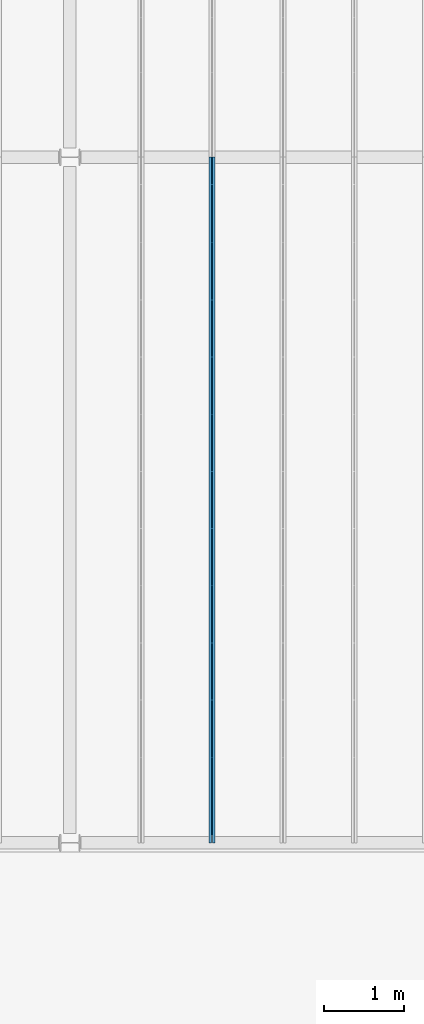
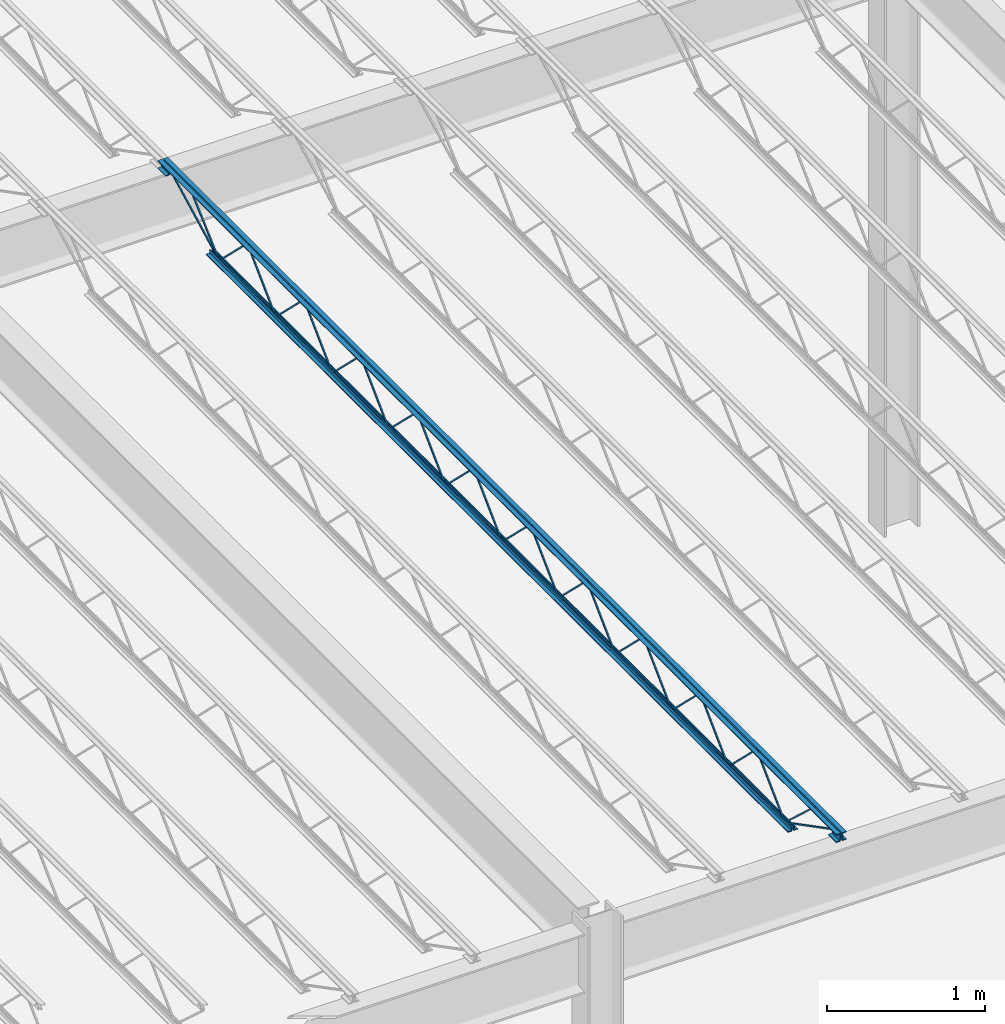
# One storey, part 34 of 119: 1 beam.
"""IFC2X3 building model written with IfcOpenShell, lengths in metres."""

from ifc_helpers import new_model, entity, si_unit, converted_unit, frame, origin, place, context, project, spatial, face_set, surface_model, element, save


model = new_model("IFC2X3")

# Units and contexts
model_context = context("Model", 3, precision=1e-09, world=origin())
plan_context = context("Plan", 3, precision=1e-09, world=origin())
ifc_project = project(units=[si_unit("LENGTHUNIT", "METRE"), si_unit("AREAUNIT", "SQUARE_METRE"), si_unit("VOLUMEUNIT", "CUBIC_METRE"), converted_unit("PLANEANGLEUNIT", "DEGREE", entity("IfcRatioMeasure", 0.01745329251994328), si_unit("PLANEANGLEUNIT", "RADIAN"), dimensions=[0, 0, 0, 0, 0, 0, 0]), si_unit("TIMEUNIT", "SECOND")], contexts=[model_context, plan_context])

# Site, building, storey
site_placement = place(None, origin())
site = spatial("IfcSite", under=ifc_project, at=site_placement, Name="Default", CompositionType="ELEMENT")
building_placement = place(site_placement, origin())
building = spatial("IfcBuilding", under=site, at=building_placement, CompositionType="ELEMENT")
storey_placement = place(building_placement, frame((0.0, 0.0, 4.570000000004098)))
storey = spatial("IfcBuildingStorey", under=building, at=storey_placement, Name="Second Floor", CompositionType="ELEMENT", Elevation=4.570000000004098)

# Beam
beam_placement = place(storey_placement, frame((-31.80925000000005, 10.04000000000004, 4.323999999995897), z_axis=(0.0, 0.0, 1.0), x_axis=(-1.0, 0.0, 0.0)))
element("IfcBeam", 1, at=beam_placement, inside=storey, Name="M_K-Series Bar Joist-Rod Web:14K1:14K1", ObjectType="M_K-Series Bar Joist-Rod Web:14K1", context=model_context, shape_type="SurfaceModel", body=[
    surface_model("IfcFaceBasedSurfaceModel", [(-0.03200000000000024, -2.141200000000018, 0.01110000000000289), (-0.04149999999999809, -2.141200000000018, 0.01110000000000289), (-0.04149999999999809, -2.141200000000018, 0.001600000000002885), (-0.03200000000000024, -2.141200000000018, 0.001600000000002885), (-0.04149999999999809, -2.13996192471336, 0.01110000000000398), (-0.03200000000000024, -2.13996192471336, 0.01110000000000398), (-0.04149999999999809, -2.136088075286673, 0.001600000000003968), (-0.04149999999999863, -1.78513807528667, 0.3449000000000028), (-0.04149999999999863, -1.782661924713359, 0.3449000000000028), (-0.04149999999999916, -1.431711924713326, 0.001600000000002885), (-0.04149999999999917, -1.426600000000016, 0.001600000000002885), (-0.04149999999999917, -1.426600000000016, 0.01110000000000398), (-0.04149999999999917, -1.427838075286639, 0.01110000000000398), (-0.04149999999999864, -1.778788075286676, 0.3544000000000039), (-0.04149999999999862, -1.789011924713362, 0.3544000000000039), (-0.03199999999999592, -2.136088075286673, 0.001600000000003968), (-0.03200000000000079, -1.785138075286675, 0.3449000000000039), (-0.03200000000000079, -1.782661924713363, 0.3449000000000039), (-0.03200000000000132, -1.431711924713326, 0.001600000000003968), (-0.03200000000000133, -1.426600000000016, 0.001600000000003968), (-0.03200000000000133, -1.426600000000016, 0.01110000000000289), (-0.03200000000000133, -1.427838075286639, 0.01110000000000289), (-0.03200000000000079, -1.778788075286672, 0.3544000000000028), (-0.03200000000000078, -1.789011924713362, 0.3544000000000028), (-0.03199999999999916, -2.855800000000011, 0.01110000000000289), (-0.04149999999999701, -2.855800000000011, 0.01110000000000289), (-0.04149999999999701, -2.855800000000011, 0.001600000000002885), (-0.03199999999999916, -2.855800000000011, 0.001600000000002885), (-0.04149999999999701, -2.854561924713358, 0.01110000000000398), (-0.03199999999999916, -2.854561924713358, 0.01110000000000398), (-0.04149999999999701, -2.850688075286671, 0.001600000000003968), (-0.04149999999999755, -2.499738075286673, 0.3449000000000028), (-0.04149999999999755, -2.497261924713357, 0.3449000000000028), (-0.04149999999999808, -2.14631192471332, 0.001600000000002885), (-0.04149999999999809, -2.141200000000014, 0.001600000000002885), (-0.04149999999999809, -2.141200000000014, 0.01110000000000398), (-0.04149999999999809, -2.142438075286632, 0.01110000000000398), (-0.04149999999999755, -2.49338807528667, 0.3544000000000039), (-0.04149999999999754, -2.50361192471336, 0.3544000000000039), (-0.03199999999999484, -2.850688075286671, 0.001600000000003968), (-0.0319999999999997, -2.499738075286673, 0.3449000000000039), (-0.0319999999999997, -2.497261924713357, 0.3449000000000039), (-0.03200000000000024, -2.14631192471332, 0.001600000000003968), (-0.03200000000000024, -2.141200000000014, 0.001600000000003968), (-0.03200000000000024, -2.141200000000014, 0.01110000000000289), (-0.03200000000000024, -2.142438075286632, 0.01110000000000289), (-0.03199999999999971, -2.49338807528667, 0.3544000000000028), (-0.0319999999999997, -2.50361192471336, 0.3544000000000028), (-0.03200000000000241, -3.570400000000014, 0.01110000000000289), (-0.04150000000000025, -3.570400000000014, 0.01110000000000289), (-0.04150000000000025, -3.570400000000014, 0.001600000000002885), (-0.03200000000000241, -3.570400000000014, 0.001600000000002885), (-0.04150000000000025, -3.569161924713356, 0.01110000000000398), (-0.03200000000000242, -3.569161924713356, 0.01110000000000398), (-0.04150000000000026, -3.565288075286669, 0.001600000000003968), (-0.04150000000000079, -3.214338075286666, 0.3449000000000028), (-0.04150000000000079, -3.211861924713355, 0.3449000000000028), (-0.04150000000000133, -2.860911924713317, 0.001600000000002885), (-0.04150000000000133, -2.855800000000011, 0.01110000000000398), (-0.04150000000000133, -2.857038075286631, 0.01110000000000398), (-0.0415000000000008, -3.207988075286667, 0.3544000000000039), (-0.04150000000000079, -3.218211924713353, 0.3544000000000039), (-0.03199999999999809, -3.565288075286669, 0.001600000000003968), (-0.03200000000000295, -3.214338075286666, 0.3449000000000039), (-0.03200000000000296, -3.211861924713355, 0.3449000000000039), (-0.03200000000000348, -2.860911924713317, 0.001600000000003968), (-0.03200000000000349, -2.855800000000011, 0.001600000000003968), (-0.03200000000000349, -2.857038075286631, 0.01110000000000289), (-0.03200000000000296, -3.207988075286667, 0.3544000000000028), (-0.03200000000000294, -3.218211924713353, 0.3544000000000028), (-0.03200000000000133, -4.285000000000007, 0.01110000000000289), (-0.04149999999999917, -4.285000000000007, 0.01110000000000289), (-0.04149999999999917, -4.285000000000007, 0.001600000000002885), (-0.03200000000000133, -4.285000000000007, 0.001600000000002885), (-0.04149999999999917, -4.283761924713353, 0.01110000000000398), (-0.03200000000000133, -4.283761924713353, 0.01110000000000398), (-0.04149999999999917, -4.279888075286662, 0.001600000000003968), (-0.0414999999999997, -3.928938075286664, 0.3449000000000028), (-0.04149999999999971, -3.926461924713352, 0.3449000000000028), (-0.04150000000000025, -3.575511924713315, 0.001600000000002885), (-0.04150000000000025, -3.570400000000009, 0.001600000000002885), (-0.04150000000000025, -3.570400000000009, 0.01110000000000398), (-0.04150000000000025, -3.571638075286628, 0.01110000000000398), (-0.04149999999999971, -3.922588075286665, 0.3544000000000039), (-0.0414999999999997, -3.932811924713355, 0.3544000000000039), (-0.031999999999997, -4.279888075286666, 0.001600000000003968), (-0.03200000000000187, -3.928938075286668, 0.3449000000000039), (-0.03200000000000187, -3.926461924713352, 0.3449000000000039), (-0.0320000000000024, -3.575511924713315, 0.001600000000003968), (-0.03200000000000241, -3.570400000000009, 0.001600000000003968), (-0.03200000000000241, -3.570400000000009, 0.01110000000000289), (-0.03200000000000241, -3.571638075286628, 0.01110000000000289), (-0.03200000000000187, -3.922588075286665, 0.3544000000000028), (-0.03200000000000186, -3.932811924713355, 0.3544000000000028), (-0.03200000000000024, -4.999600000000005, 0.01110000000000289), (-0.04149999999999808, -4.999600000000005, 0.01110000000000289), (-0.04149999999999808, -4.999600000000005, 0.001600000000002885), (-0.03200000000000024, -4.999600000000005, 0.001600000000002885), (-0.04149999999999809, -4.998361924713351, 0.01110000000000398), (-0.03200000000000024, -4.998361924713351, 0.01110000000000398), (-0.04149999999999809, -4.994488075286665, 0.001600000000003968), (-0.04149999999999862, -4.643538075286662, 0.3449000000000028), (-0.04149999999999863, -4.64106192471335, 0.3449000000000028), (-0.04149999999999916, -4.290111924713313, 0.001600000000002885), (-0.04149999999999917, -4.285000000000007, 0.01110000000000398), (-0.04149999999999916, -4.286238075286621, 0.01110000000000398), (-0.04149999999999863, -4.637188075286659, 0.3544000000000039), (-0.04149999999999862, -4.647411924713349, 0.3544000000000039), (-0.03199999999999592, -4.994488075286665, 0.001600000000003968), (-0.03200000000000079, -4.643538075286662, 0.3449000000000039), (-0.03200000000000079, -4.641061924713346, 0.3449000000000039), (-0.03200000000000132, -4.290111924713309, 0.001600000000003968), (-0.03200000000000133, -4.285000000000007, 0.001600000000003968), (-0.03200000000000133, -4.286238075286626, 0.01110000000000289), (-0.03200000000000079, -4.637188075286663, 0.3544000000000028), (-0.03200000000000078, -4.647411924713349, 0.3544000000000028), (-0.03200000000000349, -5.714200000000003, 0.01110000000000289), (-0.04150000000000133, -5.714200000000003, 0.01110000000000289), (-0.04150000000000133, -5.714200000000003, 0.001600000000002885), (-0.03200000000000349, -5.714200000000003, 0.001600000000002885), (-0.04150000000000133, -5.712961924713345, 0.01110000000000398), (-0.03200000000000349, -5.712961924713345, 0.01110000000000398), (-0.04149999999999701, -5.709088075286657, 0.001600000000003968), (-0.04149999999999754, -5.35813807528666, 0.3449000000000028), (-0.04149999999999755, -5.355661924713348, 0.3449000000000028), (-0.04149999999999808, -5.004711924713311, 0.001600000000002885), (-0.04150000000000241, -4.9996, 0.01110000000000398), (-0.04150000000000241, -5.000838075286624, 0.01110000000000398), (-0.04150000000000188, -5.351788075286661, 0.3544000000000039), (-0.04150000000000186, -5.362011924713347, 0.3544000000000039), (-0.03199999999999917, -5.709088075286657, 0.001600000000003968), (-0.03200000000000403, -5.35813807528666, 0.3449000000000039), (-0.03200000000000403, -5.355661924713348, 0.3449000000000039), (-0.03200000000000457, -5.004711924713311, 0.001600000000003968), (-0.03200000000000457, -4.9996, 0.001600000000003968), (-0.03200000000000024, -5.000838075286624, 0.01110000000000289), (-0.03199999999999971, -5.351788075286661, 0.3544000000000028), (-0.0319999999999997, -5.362011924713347, 0.3544000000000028), (-0.03200000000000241, -6.428800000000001, 0.01110000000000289), (-0.04150000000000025, -6.428800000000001, 0.01110000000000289), (-0.04150000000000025, -6.428800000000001, 0.001600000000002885), (-0.03200000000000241, -6.428800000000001, 0.001600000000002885), (-0.04150000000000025, -6.427561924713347, 0.01110000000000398), (-0.03200000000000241, -6.427561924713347, 0.01110000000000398), (-0.04150000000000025, -6.42368807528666, 0.001600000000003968), (-0.04150000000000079, -6.072738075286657, 0.3449000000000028), (-0.04150000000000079, -6.070261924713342, 0.3449000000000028), (-0.04150000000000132, -5.719311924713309, 0.001600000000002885), (-0.04150000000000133, -5.714200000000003, 0.01110000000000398), (-0.04150000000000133, -5.715438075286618, 0.01110000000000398), (-0.04150000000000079, -6.066388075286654, 0.3544000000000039), (-0.04150000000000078, -6.076611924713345, 0.3544000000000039), (-0.03199999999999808, -6.42368807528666, 0.001600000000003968), (-0.03200000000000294, -6.072738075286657, 0.3449000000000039), (-0.03200000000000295, -6.070261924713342, 0.3449000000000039), (-0.03200000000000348, -5.719311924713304, 0.001600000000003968), (-0.03200000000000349, -5.714200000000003, 0.001600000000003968), (-0.03200000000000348, -5.715438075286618, 0.01110000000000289), (-0.03200000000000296, -6.066388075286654, 0.3544000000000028), (-0.03200000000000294, -6.076611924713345, 0.3544000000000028), (-0.03200000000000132, -7.143399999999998, 0.01110000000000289), (-0.04149999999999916, -7.143399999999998, 0.01110000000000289), (-0.04149999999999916, -7.143399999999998, 0.001600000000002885), (-0.03200000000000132, -7.143399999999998, 0.001600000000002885), (-0.04149999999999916, -7.14216192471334, 0.01110000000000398), (-0.03200000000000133, -7.14216192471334, 0.01110000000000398), (-0.04149999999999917, -7.138288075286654, 0.001600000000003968), (-0.0414999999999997, -6.787338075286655, 0.3449000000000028), (-0.0414999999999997, -6.784861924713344, 0.3449000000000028), (-0.04150000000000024, -6.433911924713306, 0.001600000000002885), (-0.04150000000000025, -6.428799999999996, 0.001600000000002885), (-0.04150000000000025, -6.428799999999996, 0.01110000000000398), (-0.04150000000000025, -6.430038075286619, 0.01110000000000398), (-0.04149999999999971, -6.780988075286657, 0.3544000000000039), (-0.0414999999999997, -6.791211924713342, 0.3544000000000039), (-0.031999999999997, -7.138288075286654, 0.001600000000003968), (-0.03200000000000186, -6.787338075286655, 0.3449000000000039), (-0.03200000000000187, -6.784861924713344, 0.3449000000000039), (-0.0320000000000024, -6.433911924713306, 0.001600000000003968), (-0.03200000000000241, -6.428799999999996, 0.001600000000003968), (-0.03200000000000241, -6.428799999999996, 0.01110000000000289), (-0.0320000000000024, -6.430038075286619, 0.01110000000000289), (-0.03200000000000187, -6.780988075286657, 0.3544000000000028), (-0.03200000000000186, -6.791211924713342, 0.3544000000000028), (-0.03200000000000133, -1.42660000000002, 0.01109999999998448), (-0.04149999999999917, -1.42660000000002, 0.01109999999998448), (-0.04149999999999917, -1.42660000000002, 0.001599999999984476), (-0.03200000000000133, -1.42660000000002, 0.001599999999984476), (-0.04149999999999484, -1.425361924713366, 0.01109999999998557), (-0.031999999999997, -1.425361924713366, 0.01109999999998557), (-0.04149999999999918, -1.421488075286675, 0.001599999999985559), (-0.04149999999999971, -1.070538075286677, 0.3448999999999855), (-0.04149999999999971, -1.068061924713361, 0.3448999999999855), (-0.04150000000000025, -0.7171119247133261, 0.001599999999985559), (-0.04150000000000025, -0.7120000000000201, 0.001599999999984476), (-0.04150000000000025, -0.7120000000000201, 0.01109999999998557), (-0.04150000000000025, -0.713238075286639, 0.01109999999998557), (-0.04149999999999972, -1.064188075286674, 0.3543999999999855), (-0.0414999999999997, -1.074411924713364, 0.3543999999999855), (-0.031999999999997, -1.421488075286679, 0.001599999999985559), (-0.03199999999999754, -1.070538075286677, 0.3448999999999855), (-0.03199999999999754, -1.068061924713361, 0.3448999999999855), (-0.03199999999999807, -0.7171119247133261, 0.001599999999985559), (-0.03199999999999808, -0.7120000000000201, 0.001599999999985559), (-0.03200000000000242, -0.7120000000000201, 0.01109999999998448), (-0.03199999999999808, -0.713238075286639, 0.01109999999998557), (-0.03199999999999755, -1.064188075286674, 0.3543999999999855), (-0.03199999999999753, -1.074411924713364, 0.3543999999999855), (-0.03200000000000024, -7.857999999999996, 0.01110000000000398), (-0.04149999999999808, -7.857999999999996, 0.01110000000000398), (-0.04149999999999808, -7.857999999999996, 0.001600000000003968), (-0.03200000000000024, -7.857999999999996, 0.001600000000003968), (-0.04149999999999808, -7.856761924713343, 0.01110000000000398), (-0.03200000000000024, -7.856761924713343, 0.01110000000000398), (-0.04149999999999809, -7.852888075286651, 0.001600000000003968), (-0.04149999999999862, -7.501938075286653, 0.3449000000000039), (-0.04149999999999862, -7.499461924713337, 0.3449000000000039), (-0.04149999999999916, -7.1485119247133, 0.001600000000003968), (-0.04149999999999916, -7.143399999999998, 0.001600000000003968), (-0.04149999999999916, -7.143399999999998, 0.01110000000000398), (-0.04149999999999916, -7.144638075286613, 0.01110000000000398), (-0.04149999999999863, -7.49558807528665, 0.3544000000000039), (-0.04149999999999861, -7.50581192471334, 0.3544000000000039), (-0.03199999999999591, -7.852888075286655, 0.001600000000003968), (-0.03200000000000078, -7.501938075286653, 0.3449000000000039), (-0.03200000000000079, -7.499461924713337, 0.3449000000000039), (-0.03200000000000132, -7.1485119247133, 0.001600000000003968), (-0.03200000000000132, -7.143399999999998, 0.001600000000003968), (-0.03200000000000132, -7.143399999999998, 0.01110000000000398), (-0.03200000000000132, -7.144638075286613, 0.01110000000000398), (-0.03200000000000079, -7.49558807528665, 0.3544000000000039), (-0.03200000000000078, -7.50581192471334, 0.3544000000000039), (-0.04150000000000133, 0.0, 0.3559999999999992), (-0.07350000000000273, 0.0, 0.3559999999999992), (-0.07350000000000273, 0.0, 0.3494999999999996), (-0.04799999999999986, 0.0, 0.3494999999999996), (-0.04799999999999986, 0.0, 0.3239999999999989), (-0.04150000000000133, 0.0, 0.3239999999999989), (-0.03200000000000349, 0.0, 0.3559999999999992), (-0.03200000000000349, 0.0, 0.3239999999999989), (-0.02550000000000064, 0.0, 0.3239999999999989), (-0.02550000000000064, 0.0, 0.3494999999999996), (0.0, 0.0, 0.3494999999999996), (0.0, 0.0, 0.3559999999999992), (-0.04149999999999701, -8.569999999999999, 0.3559999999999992), (-0.07349999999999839, -8.569999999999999, 0.3559999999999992), (-0.07349999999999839, -8.569999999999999, 0.3494999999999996), (-0.04799999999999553, -8.569999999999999, 0.3494999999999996), (-0.04799999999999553, -8.569999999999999, 0.3239999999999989), (-0.04149999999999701, -8.569999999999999, 0.3239999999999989), (-0.03199999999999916, -8.569999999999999, 0.3559999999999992), (-0.03199999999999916, -8.569999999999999, 0.3239999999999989), (-0.02549999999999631, -8.569999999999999, 0.3239999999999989), (-0.02549999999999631, -8.569999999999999, 0.3494999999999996), (0.0, -8.569999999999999, 0.3494999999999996), (0.0, -8.569999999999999, 0.3559999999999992), (-0.03199999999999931, -8.470000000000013, 0.2924999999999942), (0.0, -8.470000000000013, 0.2924999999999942), (0.0, -8.470000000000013, 0.2989999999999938), (-0.02550000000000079, -8.470000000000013, 0.2989999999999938), (-0.02550000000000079, -8.470000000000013, 0.3239999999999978), (-0.03199999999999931, -8.470000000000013, 0.3239999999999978), (-0.07349999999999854, -8.470000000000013, 0.2924999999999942), (-0.04149999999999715, -8.470000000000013, 0.2924999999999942), (-0.04149999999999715, -8.470000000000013, 0.3239999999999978), (-0.048, -8.470000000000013, 0.3239999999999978), (-0.048, -8.470000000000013, 0.2989999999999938), (-0.07349999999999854, -8.470000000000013, 0.2989999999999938), (-0.03199999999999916, -8.569999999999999, 0.2924999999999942), (0.0, -8.569999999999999, 0.2924999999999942), (0.0, -8.569999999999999, 0.2989999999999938), (-0.02550000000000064, -8.569999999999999, 0.2989999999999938), (-0.02550000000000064, -8.569999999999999, 0.3239999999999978), (-0.03199999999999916, -8.569999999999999, 0.3239999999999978), (-0.07349999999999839, -8.569999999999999, 0.2924999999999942), (-0.04149999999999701, -8.569999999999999, 0.2924999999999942), (-0.04149999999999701, -8.569999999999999, 0.3239999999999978), (-0.04799999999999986, -8.569999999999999, 0.3239999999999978), (-0.04799999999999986, -8.569999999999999, 0.2989999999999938), (-0.07349999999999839, -8.569999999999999, 0.2989999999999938), (-0.04150000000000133, 0.0, 0.2924999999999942), (-0.04150000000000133, 0.0, 0.3239999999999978), (-0.04800000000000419, 0.0, 0.3239999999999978), (-0.04800000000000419, 0.0, 0.2989999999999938), (-0.07350000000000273, 0.0, 0.2989999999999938), (-0.07350000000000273, 0.0, 0.2924999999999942), (-0.03200000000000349, 0.0, 0.2924999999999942), (0.0, 0.0, 0.2924999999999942), (0.0, 0.0, 0.2989999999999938), (-0.02550000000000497, 0.0, 0.2989999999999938), (-0.02550000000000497, 0.0, 0.3239999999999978), (-0.03200000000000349, 0.0, 0.3239999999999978), (-0.04150000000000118, -0.1000000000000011, 0.2924999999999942), (-0.04150000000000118, -0.1000000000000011, 0.3239999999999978), (-0.04800000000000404, -0.1000000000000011, 0.3239999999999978), (-0.04800000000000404, -0.1000000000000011, 0.2989999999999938), (-0.07350000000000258, -0.1000000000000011, 0.2989999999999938), (-0.07350000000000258, -0.1000000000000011, 0.2924999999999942), (-0.03200000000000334, -0.1000000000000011, 0.2924999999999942), (0.0, -0.1000000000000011, 0.2924999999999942), (0.0, -0.1000000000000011, 0.2989999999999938), (-0.02550000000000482, -0.1000000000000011, 0.2989999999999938), (-0.02550000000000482, -0.1000000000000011, 0.3239999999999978), (-0.03200000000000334, -0.1000000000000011, 0.3239999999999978), (-0.04150000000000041, -0.6119999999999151, 0.0), (-0.04150000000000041, -0.6119999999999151, 0.03199999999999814), (-0.04799999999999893, -0.6119999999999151, 0.03199999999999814), (-0.04799999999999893, -0.6119999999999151, 0.006499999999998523), (-0.0735000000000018, -0.6119999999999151, 0.006499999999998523), (-0.0735000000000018, -0.6119999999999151, 0.0), (-0.03200000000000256, -0.6119999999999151, 0.0), (0.0, -0.6119999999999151, 0.0), (0.0, -0.6119999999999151, 0.006499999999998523), (-0.02549999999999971, -0.6119999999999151, 0.006499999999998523), (-0.02549999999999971, -0.6119999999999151, 0.03199999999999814), (-0.03200000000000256, -0.6119999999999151, 0.03199999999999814), (-0.04149999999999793, -7.957999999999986, 0.0), (-0.04149999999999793, -7.957999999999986, 0.03199999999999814), (-0.04799999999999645, -7.957999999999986, 0.03199999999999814), (-0.04799999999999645, -7.957999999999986, 0.006499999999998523), (-0.07349999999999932, -7.957999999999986, 0.006499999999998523), (-0.07349999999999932, -7.957999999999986, 0.0), (-0.03200000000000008, -7.957999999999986, 0.0), (0.0, -7.957999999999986, 0.0), (0.0, -7.957999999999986, 0.006499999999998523), (-0.02549999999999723, -7.957999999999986, 0.006499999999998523), (-0.02549999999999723, -7.957999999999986, 0.03199999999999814), (-0.03200000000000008, -7.957999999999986, 0.03199999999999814), (-0.03200000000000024, -7.855811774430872, 0.01056594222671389), (-0.04149999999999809, -7.855811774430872, 0.01056594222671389), (-0.04149999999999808, -7.86018822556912, 0.002134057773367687), (-0.03200000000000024, -7.86018822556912, 0.00213405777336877), (-0.03199999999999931, -8.468840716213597, 0.3287499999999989), (-0.03199999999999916, -8.569999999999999, 0.3287499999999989), (-0.03199999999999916, -8.569999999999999, 0.3192499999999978), (-0.03199999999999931, -8.471159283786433, 0.3192499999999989), (-0.04150000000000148, -8.471159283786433, 0.3192499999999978), (-0.04149999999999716, -8.468840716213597, 0.3287499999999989), (-0.04149999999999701, -8.569999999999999, 0.3287499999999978), (-0.04149999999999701, -8.569999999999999, 0.3192499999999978), (-0.03199999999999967, -8.235257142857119, 0.3417000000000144), (-0.04149999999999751, -8.235257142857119, 0.3417000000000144), (-0.04149999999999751, -8.235257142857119, 0.3322000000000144), (-0.03199999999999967, -8.235257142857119, 0.3322000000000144), (-0.04149999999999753, -8.220724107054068, 0.3417000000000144), (-0.03199999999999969, -8.220724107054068, 0.3417000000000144), (-0.04149999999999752, -8.224390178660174, 0.3322000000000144), (-0.04149999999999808, -7.861190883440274, 0.002831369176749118), (-0.04149999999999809, -7.854809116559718, 0.009868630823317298), (-0.03199999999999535, -8.224390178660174, 0.3322000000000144), (-0.03200000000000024, -7.86119088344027, 0.002831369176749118), (-0.03200000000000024, -7.854809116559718, 0.009868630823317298), (-0.03200000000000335, -0.09781177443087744, 0.3197840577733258), (-0.03200000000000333, -0.1021882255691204, 0.328215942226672), (-0.04150000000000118, -0.1021882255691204, 0.328215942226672), (-0.04150000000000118, -0.09781177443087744, 0.3197840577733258), (-0.03200000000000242, -0.7098117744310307, 0.002134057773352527), (-0.03200000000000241, -0.7141882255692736, 0.01056594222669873), (-0.04150000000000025, -0.7141882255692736, 0.01056594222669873), (-0.04150000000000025, -0.7098117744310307, 0.002134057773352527), (-0.03200000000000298, -0.336963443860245, 0.3461600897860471), (-0.03200000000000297, -0.3434079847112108, 0.3531399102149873), (-0.04150000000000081, -0.3434079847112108, 0.3531399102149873), (-0.04150000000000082, -0.336963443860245, 0.3461600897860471), (-0.03200000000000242, -0.7087777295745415, 0.00286008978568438), (-0.03200000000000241, -0.7152222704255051, 0.009839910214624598), (-0.04150000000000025, -0.7152222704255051, 0.009839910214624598), (-0.04150000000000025, -0.7087777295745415, 0.00286008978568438)], [face_set([[[0, 1, 2, 3]], [[1, 4, 5, 0]], [[2, 6, 7, 8, 9, 10, 11, 12, 13, 14, 4, 1]], [[3, 2, 6, 15]], [[0, 3, 15, 16, 17, 18, 19, 20, 21, 22, 23, 5]], [[4, 5, 23, 14]], [[15, 16, 7, 6]], [[14, 13, 22, 23]], [[16, 7, 8, 17]], [[13, 12, 21, 22]], [[17, 8, 9, 18]], [[20, 11, 10, 19]], [[12, 11, 20, 21]], [[18, 9, 10, 19]]]), face_set([[[24, 25, 26, 27]], [[25, 28, 29, 24]], [[26, 30, 31, 32, 33, 34, 35, 36, 37, 38, 28, 25]], [[27, 26, 30, 39]], [[24, 27, 39, 40, 41, 42, 43, 44, 45, 46, 47, 29]], [[28, 29, 47, 38]], [[39, 40, 31, 30]], [[38, 37, 46, 47]], [[40, 31, 32, 41]], [[37, 36, 45, 46]], [[41, 32, 33, 42]], [[44, 35, 34, 43]], [[36, 35, 44, 45]], [[42, 33, 34, 43]]]), face_set([[[48, 49, 50, 51]], [[49, 52, 53, 48]], [[50, 54, 55, 56, 57, 26, 58, 59, 60, 61, 52, 49]], [[51, 50, 54, 62]], [[48, 51, 62, 63, 64, 65, 66, 24, 67, 68, 69, 53]], [[52, 53, 69, 61]], [[62, 63, 55, 54]], [[61, 60, 68, 69]], [[63, 55, 56, 64]], [[60, 59, 67, 68]], [[64, 56, 57, 65]], [[24, 58, 26, 66]], [[59, 58, 24, 67]], [[65, 57, 26, 66]]]), face_set([[[70, 71, 72, 73]], [[71, 74, 75, 70]], [[72, 76, 77, 78, 79, 80, 81, 82, 83, 84, 74, 71]], [[73, 72, 76, 85]], [[70, 73, 85, 86, 87, 88, 89, 90, 91, 92, 93, 75]], [[74, 75, 93, 84]], [[85, 86, 77, 76]], [[84, 83, 92, 93]], [[86, 77, 78, 87]], [[83, 82, 91, 92]], [[87, 78, 79, 88]], [[90, 81, 80, 89]], [[82, 81, 90, 91]], [[88, 79, 80, 89]]]), face_set([[[94, 95, 96, 97]], [[95, 98, 99, 94]], [[96, 100, 101, 102, 103, 72, 104, 105, 106, 107, 98, 95]], [[97, 96, 100, 108]], [[94, 97, 108, 109, 110, 111, 112, 70, 113, 114, 115, 99]], [[98, 99, 115, 107]], [[108, 109, 101, 100]], [[107, 106, 114, 115]], [[109, 101, 102, 110]], [[106, 105, 113, 114]], [[110, 102, 103, 111]], [[70, 104, 72, 112]], [[105, 104, 70, 113]], [[111, 103, 72, 112]]]), face_set([[[116, 117, 118, 119]], [[117, 120, 121, 116]], [[118, 122, 123, 124, 125, 96, 126, 127, 128, 129, 120, 117]], [[119, 118, 122, 130]], [[116, 119, 130, 131, 132, 133, 134, 94, 135, 136, 137, 121]], [[120, 121, 137, 129]], [[130, 131, 123, 122]], [[129, 128, 136, 137]], [[131, 123, 124, 132]], [[128, 127, 135, 136]], [[132, 124, 125, 133]], [[94, 126, 96, 134]], [[127, 126, 94, 135]], [[133, 125, 96, 134]]]), face_set([[[138, 139, 140, 141]], [[139, 142, 143, 138]], [[140, 144, 145, 146, 147, 118, 148, 149, 150, 151, 142, 139]], [[141, 140, 144, 152]], [[138, 141, 152, 153, 154, 155, 156, 116, 157, 158, 159, 143]], [[142, 143, 159, 151]], [[152, 153, 145, 144]], [[151, 150, 158, 159]], [[153, 145, 146, 154]], [[150, 149, 157, 158]], [[154, 146, 147, 155]], [[116, 148, 118, 156]], [[149, 148, 116, 157]], [[155, 147, 118, 156]]]), face_set([[[160, 161, 162, 163]], [[161, 164, 165, 160]], [[162, 166, 167, 168, 169, 170, 171, 172, 173, 174, 164, 161]], [[163, 162, 166, 175]], [[160, 163, 175, 176, 177, 178, 179, 180, 181, 182, 183, 165]], [[164, 165, 183, 174]], [[175, 176, 167, 166]], [[174, 173, 182, 183]], [[176, 167, 168, 177]], [[173, 172, 181, 182]], [[177, 168, 169, 178]], [[180, 171, 170, 179]], [[172, 171, 180, 181]], [[178, 169, 170, 179]]]), face_set([[[184, 185, 186, 187]], [[185, 188, 189, 184]], [[186, 190, 191, 192, 193, 194, 195, 196, 197, 198, 188, 185]], [[187, 186, 190, 199]], [[184, 187, 199, 200, 201, 202, 203, 204, 205, 206, 207, 189]], [[188, 189, 207, 198]], [[199, 200, 191, 190]], [[198, 197, 206, 207]], [[200, 191, 192, 201]], [[197, 196, 205, 206]], [[201, 192, 193, 202]], [[204, 195, 194, 203]], [[196, 195, 204, 205]], [[202, 193, 194, 203]]]), face_set([[[208, 209, 210, 211]], [[209, 212, 213, 208]], [[210, 214, 215, 216, 217, 218, 219, 220, 221, 222, 212, 209]], [[211, 210, 214, 223]], [[208, 211, 223, 224, 225, 226, 227, 228, 229, 230, 231, 213]], [[212, 213, 231, 222]], [[223, 224, 215, 214]], [[222, 221, 230, 231]], [[224, 215, 216, 225]], [[221, 220, 229, 230]], [[225, 216, 217, 226]], [[228, 219, 218, 227]], [[220, 219, 228, 229]], [[226, 217, 218, 227]]]), face_set([[[232, 233, 234, 235, 236, 237]], [[238, 239, 240, 241, 242, 243]], [[244, 245, 246, 247, 248, 249]], [[250, 251, 252, 253, 254, 255]], [[237, 232, 244, 249]], [[236, 237, 249, 248]], [[235, 247, 248, 236]], [[234, 235, 247, 246]], [[233, 245, 246, 234]], [[232, 244, 245, 233]], [[243, 255, 250, 238]], [[242, 243, 255, 254]], [[241, 242, 254, 253]], [[240, 241, 253, 252]], [[239, 240, 252, 251]], [[238, 250, 251, 239]]]), face_set([[[256, 257, 258, 259, 260, 261]], [[262, 263, 264, 265, 266, 267]], [[268, 269, 270, 271, 272, 273]], [[274, 275, 276, 277, 278, 279]], [[261, 273, 268, 256]], [[260, 272, 273, 261]], [[259, 260, 272, 271]], [[258, 270, 271, 259]], [[257, 258, 270, 269]], [[256, 257, 269, 268]], [[267, 279, 274, 262]], [[266, 278, 279, 267]], [[265, 277, 278, 266]], [[264, 276, 277, 265]], [[263, 264, 276, 275]], [[262, 263, 275, 274]]]), face_set([[[280, 281, 282, 283, 284, 285]], [[286, 287, 288, 289, 290, 291]], [[292, 293, 294, 295, 296, 297]], [[298, 299, 300, 301, 302, 303]], [[285, 280, 292, 297]], [[284, 296, 297, 285]], [[283, 295, 296, 284]], [[282, 294, 295, 283]], [[281, 293, 294, 282]], [[280, 281, 293, 292]], [[291, 303, 298, 286]], [[290, 302, 303, 291]], [[289, 290, 302, 301]], [[288, 300, 301, 289]], [[287, 288, 300, 299]], [[286, 287, 299, 298]]]), face_set([[[304, 305, 306, 307, 308, 309]], [[310, 311, 312, 313, 314, 315]], [[316, 317, 318, 319, 320, 321]], [[322, 323, 324, 325, 326, 327]], [[309, 304, 316, 321]], [[308, 320, 321, 309]], [[307, 319, 320, 308]], [[306, 318, 319, 307]], [[305, 317, 318, 306]], [[304, 305, 317, 316]], [[315, 327, 322, 310]], [[314, 326, 327, 315]], [[313, 314, 326, 325]], [[312, 324, 325, 313]], [[311, 312, 324, 323]], [[310, 311, 323, 322]]]), face_set([[[328, 329, 330, 331]], [[331, 328, 332, 333, 334, 335]], [[330, 331, 335, 336]], [[329, 337, 338, 339, 336, 330]], [[328, 332, 337, 329]], [[333, 338, 339, 334]], [[336, 335, 334, 339]], [[332, 333, 338, 337]]]), face_set([[[340, 341, 342, 343]], [[341, 344, 345, 340]], [[342, 346, 347, 348, 344, 341]], [[343, 342, 346, 349]], [[340, 343, 349, 350, 351, 345]], [[351, 348, 347, 350]], [[344, 348, 351, 345]], [[349, 346, 347, 350]]]), face_set([[[352, 353, 354, 355]], [[356, 357, 358, 359]], [[355, 352, 356, 359]], [[354, 358, 359, 355]], [[353, 357, 358, 354]], [[352, 353, 357, 356]]]), face_set([[[360, 361, 362, 363]], [[364, 365, 366, 367]], [[363, 367, 364, 360]], [[362, 366, 367, 363]], [[361, 362, 366, 365]], [[360, 361, 365, 364]]])]),
])

save(model, "model.ifc")
